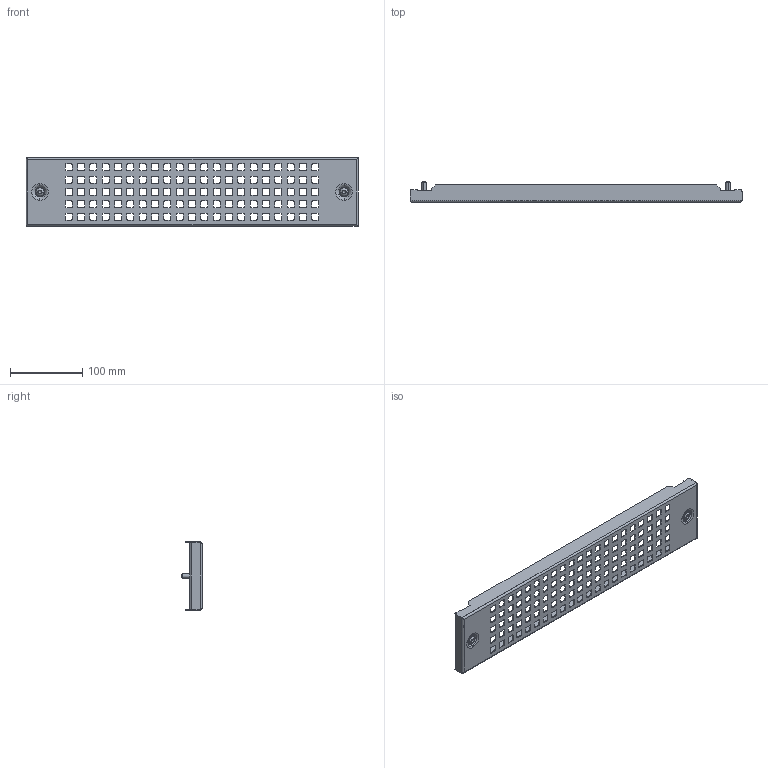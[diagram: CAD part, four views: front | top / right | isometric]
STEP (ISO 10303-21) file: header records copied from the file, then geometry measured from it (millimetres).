
FILE_DESCRIPTION (( 'STEP AP203' ), '1' );
FILE_NAME ('Z 100.600 IP Ïàíåëü áîêîâàÿ ñ âåíòèëÿöèåé öîêîëÿ òåëåêîììóíèêàöèîííîãî.STEP', '2013-01-12T07:21:59', ( 'System' ), ( '' ), 'SwSTEP 2.0', 'SolidWorks 2012', '' );
FILE_SCHEMA (( 'CONFIG_CONTROL_DESIGN' ));
Length unit declared in the file: millimetre
Products named in the file (1): Z 100.600 IP Ïàíåëü áîêîâàÿ ñ âåíòèëÿöèåé öîêîëÿ òåëåêîììóíèêàöèîííîãî
Bounding box: 458 x 28.02 x 94 mm (x, y, z)
Volume: 69879.9 mm3; surface area: 121013.9 mm2
Topology: 3 solids, 3 shells, 974 faces, 2836 edges, 1874 vertices
Faces by surface type: plane 486, cylinder 444, torus 24, cone 16, sphere 4
Entity records: 32873 total; most frequent: DIRECTION 5746, CARTESIAN_POINT 5705, ORIENTED_EDGE 5664, EDGE_CURVE 2832, AXIS2_PLACEMENT_3D 1947, VERTEX_POINT 1874, VECTOR 1852, LINE 1852
